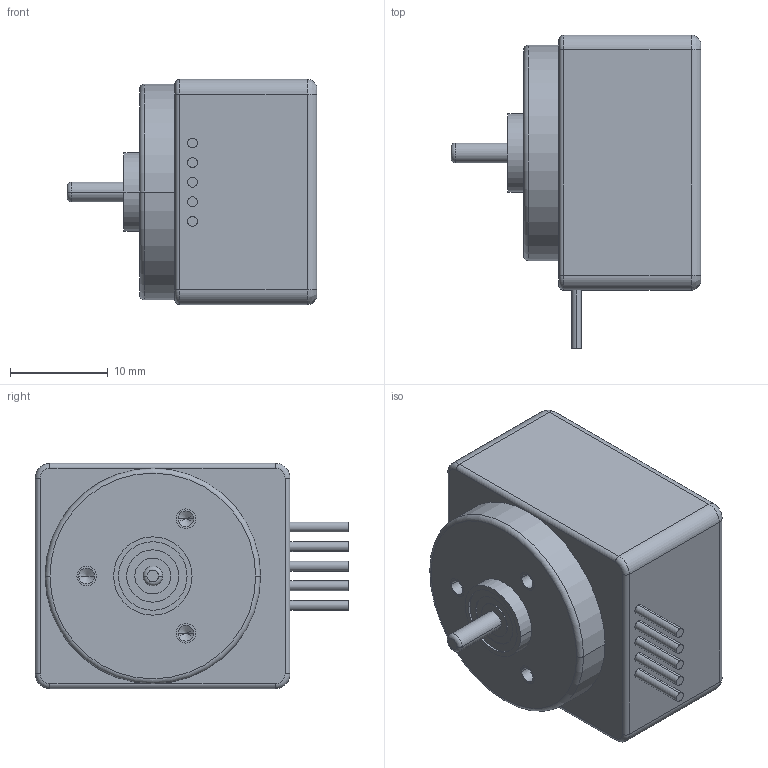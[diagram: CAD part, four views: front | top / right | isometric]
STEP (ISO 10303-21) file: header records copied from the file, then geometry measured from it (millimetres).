
FILE_DESCRIPTION((''),'2;1');
FILE_NAME('1032123','2021-03-26T14:44:05',('mmagvisi'),(''),'CREO PARAMETRIC BY PTC INC, 2020342','CREO PARAMETRIC BY PTC INC, 2020342','');
FILE_SCHEMA(('CONFIG_CONTROL_DESIGN','SHAPE_APPEARANCE_LAYERS_GROUPS'));
Length unit declared in the file: millimetre
Products named in the file (1): 1032123
Bounding box: 25.5 x 32 x 23 mm (x, y, z)
Volume: 10071.2 mm3; surface area: 3063 mm2
Topology: 1 solids, 4 shells, 85 faces, 188 edges, 115 vertices
Faces by surface type: cylinder 46, plane 21, torus 8, cone 6, bspline 4
Entity records: 2491 total; most frequent: DIRECTION 462, CARTESIAN_POINT 443, ORIENTED_EDGE 352, AXIS2_PLACEMENT_3D 198, EDGE_CURVE 182, CIRCLE 116, VERTEX_POINT 115, EDGE_LOOP 101
